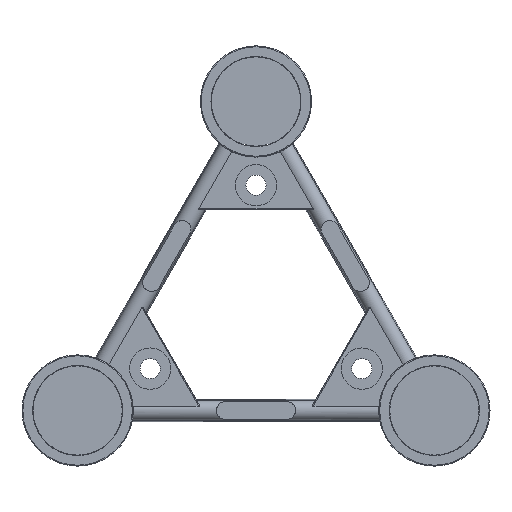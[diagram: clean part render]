
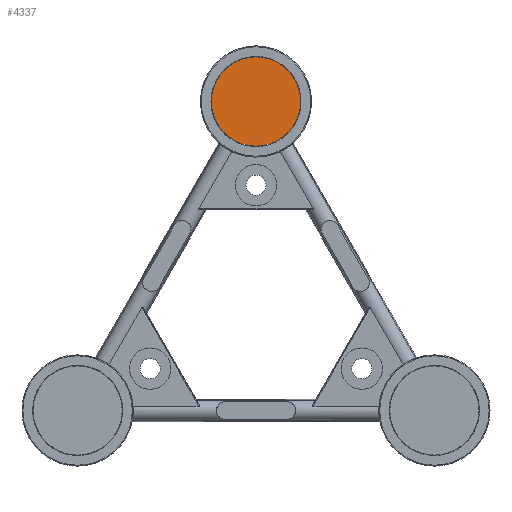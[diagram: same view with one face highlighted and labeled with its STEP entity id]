
A CAD part, left-side view. The second image highlights one B-rep face of the part: STEP entity #4337.
In plain terms, the highlighted planar face has unit normal (-1, 0, 0).
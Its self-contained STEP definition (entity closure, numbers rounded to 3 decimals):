
#445=CIRCLE('',#4777,25.4);
#830=FACE_OUTER_BOUND('',#1192,.T.);
#1192=EDGE_LOOP('',(#3652));
#2044=VERTEX_POINT('',#8392);
#2584=EDGE_CURVE('',#2044,#2044,#445,.T.);
#3652=ORIENTED_EDGE('',*,*,#2584,.F.);
#3830=PLANE('',#4780);
#4337=ADVANCED_FACE('',(#830),#3830,.T.);
#4777=AXIS2_PLACEMENT_3D('',#8393,#5875,#5876);
#4780=AXIS2_PLACEMENT_3D('',#8396,#5881,#5882);
#5875=DIRECTION('center_axis',(1.,0.,0.));
#5876=DIRECTION('ref_axis',(0.,-1.,0.));
#5881=DIRECTION('center_axis',(-1.,0.,0.));
#5882=DIRECTION('ref_axis',(0.,-1.,0.));
#8392=CARTESIAN_POINT('',(0.,126.9,175.803));
#8393=CARTESIAN_POINT('Origin',(0.,101.5,175.803));
#8396=CARTESIAN_POINT('Origin',(0.,101.5,175.803));
